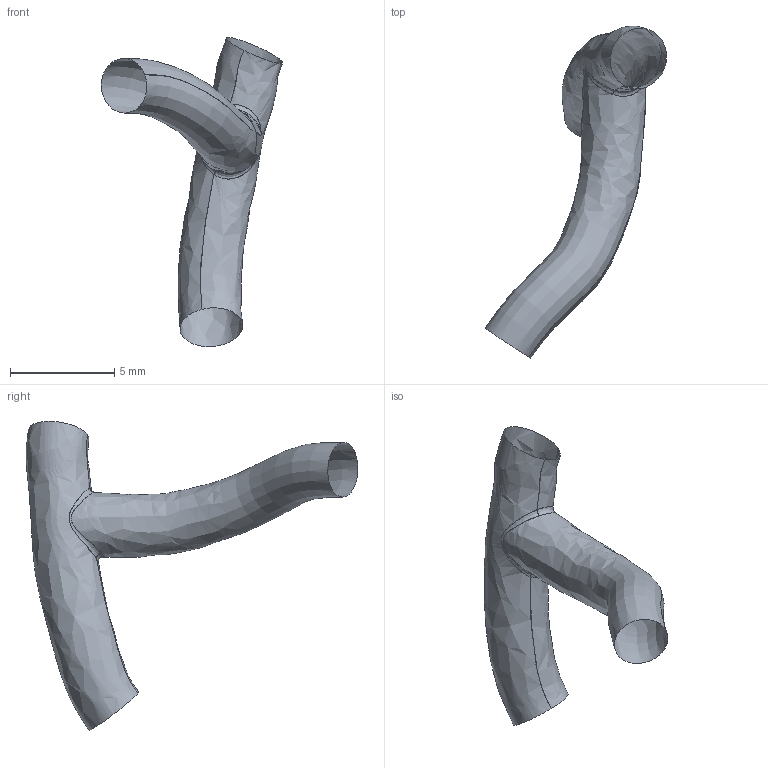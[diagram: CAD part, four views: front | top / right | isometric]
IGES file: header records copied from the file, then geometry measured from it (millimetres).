
Global section: file name: C:\Documents and Settings\Administrator\Desktop\FDA-Pig\Domestic LCA\Pig_000005\lcx.es.igs; native system: Rhinoceros ( May 19 2006 ); preprocessor: Trout Lake IGES 012 May 19 2006; date: 111205.183401; units: centimetre
Bounding box: 8.71 x 15.96 x 14.87 mm (x, y, z)
Surface area: 252.3 mm2 (no closed solid volume)
Topology: 0 solids, 0 shells, 5 faces, 63 edges, 62 vertices
Faces by surface type: bspline 5
